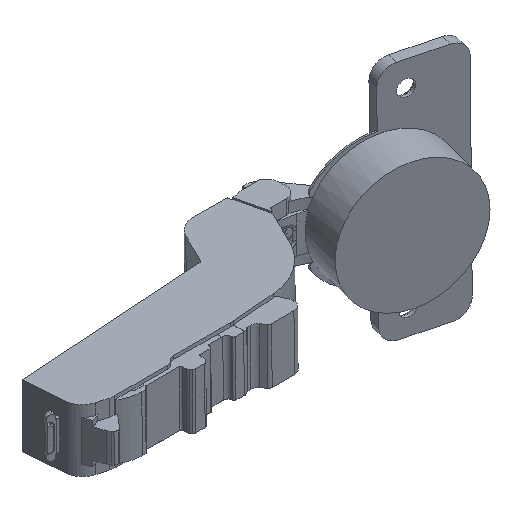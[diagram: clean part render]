
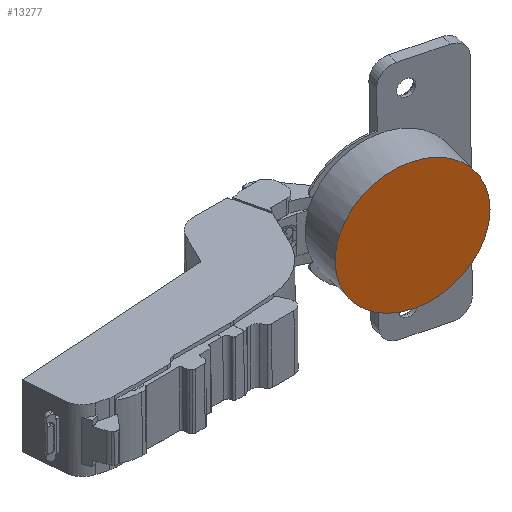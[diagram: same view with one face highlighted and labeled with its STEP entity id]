
A CAD part, isometric view. The second image highlights one B-rep face of the part: STEP entity #13277.
In plain terms, the highlighted planar face has unit normal (-0.254, -0.967, 0.009).
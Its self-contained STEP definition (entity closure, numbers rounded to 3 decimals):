
#1295 = CARTESIAN_POINT ( 'NONE',  ( 22.323, 14.884, -18.037 ) ) ;
#1332 = EDGE_CURVE ( 'NONE', #11098, #1611, #4395, .T. ) ;
#1611 = VERTEX_POINT ( 'NONE', #5983 ) ;
#1619 = DIRECTION ( 'NONE',  ( 0.967, -0.254, 0. ) ) ;
#2696 = AXIS2_PLACEMENT_3D ( 'NONE', #7743, #11821, #1619 ) ;
#3425 = ORIENTED_EDGE ( 'NONE', *, *, #10527, .T. ) ;
#4395 = CIRCLE ( 'NONE', #7809, 17.4 ) ;
#4869 = CIRCLE ( 'NONE', #9564, 17.4 ) ;
#5983 = CARTESIAN_POINT ( 'NONE',  ( 5.494, 19.305, -18.037 ) ) ;
#6185 = EDGE_LOOP ( 'NONE', ( #7180, #3425 ) ) ;
#6224 = DIRECTION ( 'NONE',  ( 0.967, -0.254, 0. ) ) ;
#6422 = DIRECTION ( 'NONE',  ( -0.254, -0.967, 0.009 ) ) ;
#7180 = ORIENTED_EDGE ( 'NONE', *, *, #1332, .T. ) ;
#7239 = DIRECTION ( 'NONE',  ( 0.967, -0.254, 0. ) ) ;
#7685 = PLANE ( 'NONE',  #2696 ) ;
#7743 = CARTESIAN_POINT ( 'NONE',  ( 22.323, 14.884, -18.037 ) ) ;
#7809 = AXIS2_PLACEMENT_3D ( 'NONE', #10686, #11684, #7239 ) ;
#9476 = CARTESIAN_POINT ( 'NONE',  ( 39.152, 10.463, -18.037 ) ) ;
#9564 = AXIS2_PLACEMENT_3D ( 'NONE', #1295, #6422, #6224 ) ;
#10527 = EDGE_CURVE ( 'NONE', #1611, #11098, #4869, .T. ) ;
#10686 = CARTESIAN_POINT ( 'NONE',  ( 22.323, 14.884, -18.037 ) ) ;
#10831 = FACE_OUTER_BOUND ( 'NONE', #6185, .T. ) ;
#11098 = VERTEX_POINT ( 'NONE', #9476 ) ;
#11684 = DIRECTION ( 'NONE',  ( -0.254, -0.967, 0.009 ) ) ;
#11821 = DIRECTION ( 'NONE',  ( -0.254, -0.967, 0.009 ) ) ;
#13277 = ADVANCED_FACE ( 'NONE', ( #10831 ), #7685, .T. ) ;
